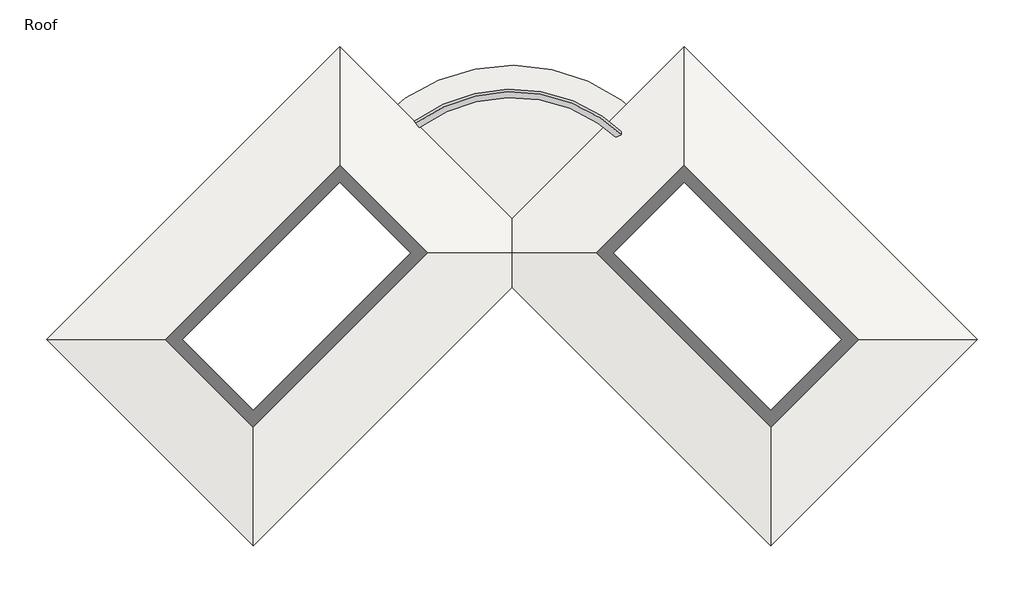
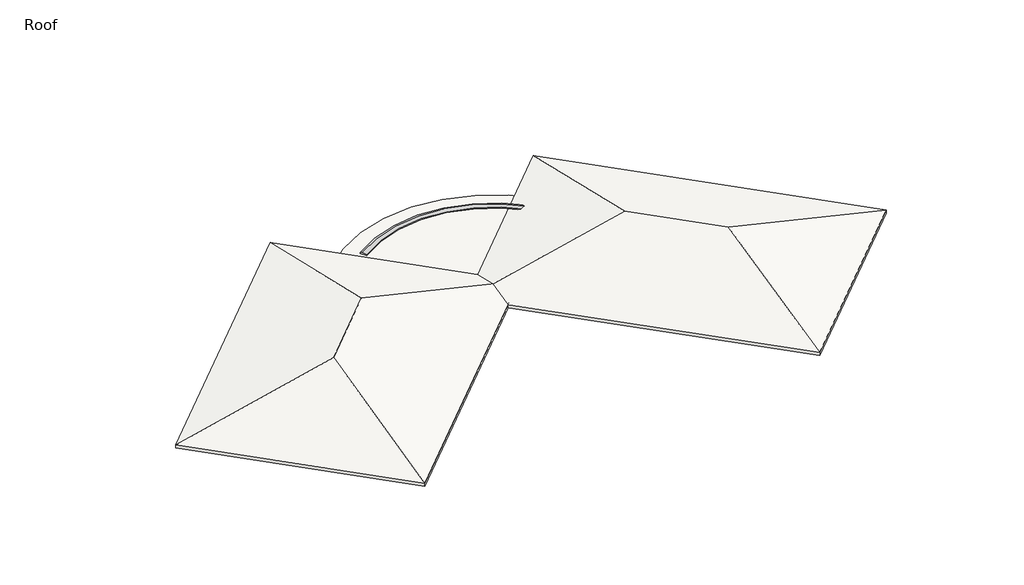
# One storey: 6 proxies, 3 roofs.
"""IFC4 building model written with IfcOpenShell, lengths in millimetres."""

from ifc_helpers import new_model, si_unit, point, frame, frame_2d, origin, place, context, project, spatial, polyline, circle_curve, trimmed, segment, composite_curve, outline, extrude, faceted_brep, element, save
from ifc_brep_helpers import plane_surface, cylinder_surface, revolved_surface, advanced_brep

model = new_model("IFC4")

# Units and contexts
model_context = context("Model", 3, world=origin())
ifc_project = project(units=[si_unit("LENGTHUNIT", "METRE", prefix="MILLI")], contexts=[model_context])

# Site, building, storey
site = spatial("IfcSite", under=ifc_project)
building = spatial("IfcBuilding", under=site)
storey = spatial("IfcBuildingStorey", under=building, Name="Roof", Elevation=4572.0)

# Proxies
placement = place(None, origin())
element("IfcBuildingElementProxy", 1, Name="Wall Sweeps", at=placement, inside=storey, context=model_context, shape_type="Brep", body=[
    faceted_brep([(4057.9485283, 9339.6949534, 4635.5), (3860.3828937, 9537.2605881, 4673.6), (3770.5803325, 9627.0631493, 4635.5), (3770.5803325, 9627.0631493, 4572.0), (4057.9485283, 9339.6949534, 4572.0), (5753.0175119, 11034.763937, 4635.5), (5753.0175119, 11034.763937, 4572.0), (5753.0175119, 11609.5003287, 4572.0), (5753.0175119, 11609.5003287, 4635.5), (5753.0175119, 11429.8952063, 4673.6)], [[[0, 1, 2, 3, 4]], [[5, 6, 7, 8, 9]], [[1, 0, 5, 9]], [[2, 1, 9, 8]], [[3, 2, 8, 7]], [[4, 3, 7, 6]], [[0, 4, 6, 5]]]),
])
element("IfcBuildingElementProxy", 2, Name="Wall Sweeps", at=placement, inside=storey, context=model_context, shape_type="Brep", body=[
    faceted_brep([(5753.0175119, 11034.763937, 4635.5), (5753.0175119, 11429.8952063, 4673.6), (5753.0175119, 11609.5003287, 4635.5), (5753.0175119, 11609.5003287, 4572.0), (5753.0175119, 11034.763937, 4572.0), (18145.770959, -1357.9895101, 4635.5), (18145.770959, -1357.9895101, 4572.0), (18720.5073507, -1357.9895101, 4572.0), (18720.5073507, -1357.9895101, 4635.5), (18540.9022283, -1357.9895101, 4673.6)], [[[0, 1, 2, 3, 4]], [[5, 6, 7, 8, 9]], [[1, 0, 5, 9]], [[2, 1, 9, 8]], [[3, 2, 8, 7]], [[4, 3, 7, 6]], [[0, 4, 6, 5]]]),
])
element("IfcBuildingElementProxy", 3, Name="Wall Sweeps", at=placement, inside=storey, context=model_context, shape_type="Brep", body=[
    faceted_brep([(18145.770959, -1357.9895101, 4635.5), (18540.9022283, -1357.9895101, 4673.6), (18720.5073507, -1357.9895101, 4635.5), (18720.5073507, -1357.9895101, 4572.0), (18145.770959, -1357.9895101, 4572.0), (9918.7338201, -9585.026649, 4635.5), (9918.7338201, -9585.026649, 4572.0), (9938.9393964, -9605.2322253, 4572.0), (10188.1415037, -9854.4343326, 4572.0), (10206.102016, -9872.3948449, 4572.0), (10206.102016, -9872.3948449, 4635.5), (10116.2994547, -9782.5922837, 4673.6)], [[[0, 1, 2, 3, 4]], [[5, 6, 7, 8, 9, 10, 11]], [[1, 0, 5, 11]], [[2, 1, 11, 10]], [[3, 2, 10, 9]], [[4, 3, 9, 8, 7, 6]], [[0, 4, 6, 5]]]),
])
element("IfcBuildingElementProxy", 4, Name="Wall Sweeps", at=placement, inside=storey, context=model_context, shape_type="Brep", body=[
    faceted_brep([(-24151.2353712, -1627.3971937, 4635.5), (-24348.8010059, -1429.8315591, 4673.6), (-24438.6035671, -1340.0289979, 4635.5), (-24438.6035671, -1340.0289979, 4572.0), (-24151.2353712, -1627.3971937, 4572.0), (-11489.0742405, 11034.763937, 4635.5), (-11489.0742405, 11034.763937, 4572.0), (-11489.0742405, 11609.5003287, 4572.0), (-11489.0742405, 11609.5003287, 4635.5), (-11489.0742405, 11429.8952063, 4673.6)], [[[0, 1, 2, 3, 4]], [[5, 6, 7, 8, 9]], [[1, 0, 5, 9]], [[2, 1, 9, 8]], [[3, 2, 8, 7]], [[4, 3, 7, 6]], [[0, 4, 6, 5]]]),
])
element("IfcBuildingElementProxy", 5, Name="Wall Sweeps", at=placement, inside=storey, context=model_context, shape_type="Brep", body=[
    faceted_brep([(-11489.0742405, 11034.763937, 4635.5), (-11489.0742405, 11429.8952063, 4673.6), (-11489.0742405, 11609.5003287, 4635.5), (-11489.0742405, 11609.5003287, 4572.0), (-11489.0742405, 11034.763937, 4572.0), (-8931.8939077, 8477.5836041, 4635.5), (-8931.8939077, 8477.5836041, 4572.0), (-8911.6883314, 8497.7891804, 4572.0), (-8662.486224, 8746.9912878, 4572.0), (-8644.5257118, 8764.9518, 4572.0), (-8644.5257118, 8764.9518, 4635.5), (-8734.328273, 8675.1492388, 4673.6), (-8836.2976328, 8573.179879, 4653.9354839), (-8911.6883314, 8497.7891804, 4639.3965909)], [[[0, 1, 2, 3, 4]], [[5, 6, 7, 8, 9, 10, 11, 12, 13]], [[1, 0, 5, 13, 12, 11]], [[2, 1, 11, 10]], [[3, 2, 10, 9]], [[4, 3, 9, 8, 7, 6]], [[0, 4, 6, 5]]]),
])
element("IfcBuildingElementProxy", 6, Name="Wall Sweeps", at=placement, inside=storey, context=model_context, shape_type="AdvancedBrep", body=[
    advanced_brep(
    [(-7507.26102, 9233.8641208, 4635.5), (-7672.4116971, 9459.2296325, 4673.6), (-7747.4801867, 9561.6685015, 4635.5), (-7747.4801867, 9561.6685015, 4572.0), (-7507.26102, 9233.8641208, 4572.0), (2658.1675575, 8476.4427105, 4635.5), (2658.1675575, 8476.4427105, 4572.0), (2944.3136246, 8765.0278596, 4572.0), (2944.3136246, 8765.0278596, 4635.5), (2854.8929786, 8674.8450005, 4673.6)],
    [
        (0, 1),
        (1, 2),
        (2, 3),
        (3, 4),
        (4, 0),
        (5, 6),
        (6, 7),
        (7, 8),
        (8, 9),
        (9, 5),
        (9, 1, circle_curve(frame((-2868.0283643, 2903.1420194, 4673.6), z_axis=(0.0, 0.0, 1.0), x_axis=(-0.591090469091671, 0.8066052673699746, 0.0)), 8128.0)),
        (0, 5, circle_curve(frame((-2868.0283643, 2903.1420194, 4635.5), z_axis=(0.0, 0.0, -1.0), x_axis=(-0.591090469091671, 0.8066052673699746, 0.0)), 7848.6)),
        (8, 2, circle_curve(frame((-2868.0283643, 2903.1420194, 4635.5), z_axis=(0.0, 0.0, 1.0), x_axis=(-0.591090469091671, 0.8066052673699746, 0.0)), 8255.0)),
        (7, 3, circle_curve(frame((-2868.0283643, 2903.1420194, 4572.0), z_axis=(0.0, 0.0, 1.0), x_axis=(-0.591090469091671, 0.8066052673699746, 0.0)), 8255.0)),
        (6, 4, circle_curve(frame((-2868.0283643, 2903.1420194, 4572.0), z_axis=(0.0, 0.0, 1.0), x_axis=(-0.591090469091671, 0.8066052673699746, 0.0)), 7848.6)),
    ],
    [
        plane_surface(frame((-2868.0283643, 2903.1420194, 4572.0), z_axis=(-0.8066052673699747, -0.5910904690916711, 0.0), x_axis=(-0.5910904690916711, 0.8066052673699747, 0.0))),
        plane_surface(frame((-2868.0283643, 2903.1420194, 4572.0), z_axis=(0.710101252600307, -0.7040995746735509, 0.0), x_axis=(0.7040995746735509, 0.710101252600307, 0.0))),
        revolved_surface(polyline([(-7507.26102, 9233.8641208, 4635.5), (-7672.4116971, 9459.2296325, 4673.6)]), (-2868.0283643, 2903.1420194, 4572.0), (0.0, 0.0, -1.0)),
        revolved_surface(polyline([(-7672.4116971, 9459.2296325, 4673.6), (-7747.4801867, 9561.6685015, 4635.5)]), (-2868.0283643, 2903.1420194, 4572.0), (0.0, 0.0, -1.0)),
        cylinder_surface(frame((-2868.0283643, 2903.1420194, 4572.0), z_axis=(0.0, 0.0, -1.0), x_axis=(-0.591090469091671, 0.8066052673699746, 0.0)), 8255.0),
        plane_surface(frame((-2868.0283643, 2903.1420194, 4572.0), z_axis=(0.0, 0.0, -1.0000000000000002), x_axis=(-0.5910904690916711, 0.8066052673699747, 0.0))),
        revolved_surface(polyline([(-7507.261020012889, 9233.864120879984, 4572.0), (-7507.261020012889, 9233.864120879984, 4635.5)]), (-2868.0283643, 2903.1420194, 4572.0), (0.0, 0.0, -1.0)),
    ],
    [
        (0, [[1, 2, 3, 4, 5]]),
        (1, [[6, 7, 8, 9, 10]]),
        (2, [[11, -1, 12, -10]]),
        (3, [[13, -2, -11, -9]]),
        (4, [[14, -3, -13, -8]]),
        (5, [[15, -4, -14, -7]]),
        (6, [[-12, -5, -15, -6]]),
    ],
),
])

# Roofs
element("IfcRoof", 7, ObjectType="Insulation on Metal Deck - EPDM", at=placement, inside=storey, context=model_context, shape_type="Brep", body=[
    faceted_brep([(-11489.0742405, 2952.533428, 6604.0), (-11489.0742405, 13297.7884795, 4165.6), (-1143.8191891, 2952.533428, 4165.6), (-26144.8522301, -1357.9895101, 4165.6), (-15799.5971786, -1357.9895101, 6604.0), (-15799.5971786, -11703.2445616, 4165.6), (-11489.0742405, 13297.7884795, 4373.0981191), (-11489.0742405, 2952.533428, 6811.4981191), (-1143.8191891, 2952.533428, 4373.0981191), (-26144.8522301, -1357.9895101, 4373.0981191), (-15799.5971786, -11703.2445616, 4373.0981191), (-15799.5971786, -1357.9895101, 6811.4981191)], [[[0, 1, 2]], [[3, 4, 5]], [[1, 0, 4, 3]], [[5, 4, 0, 2]], [[6, 7, 8]], [[9, 10, 11]], [[6, 9, 11, 7]], [[10, 8, 7, 11]], [[3, 9, 6, 1]], [[5, 10, 9, 3]], [[2, 8, 10, 5]], [[1, 6, 8, 2]]]),
])
element("IfcRoof", 8, ObjectType="Insulation on Metal Deck - EPDM", at=placement, inside=storey, context=model_context, shape_type="Brep", body=[
    faceted_brep([(5753.0175119, 13297.7884795, 4165.6), (5753.0175119, 2952.533428, 6604.0), (-4592.2375396, 2952.533428, 4165.6), (10063.54045, -11703.2445616, 4165.6), (10063.54045, -1357.9895101, 6604.0), (20408.7955015, -1357.9895101, 4165.6), (5753.0175119, 13297.7884795, 4373.0981191), (-4592.2375396, 2952.533428, 4373.0981191), (5753.0175119, 2952.533428, 6811.4981191), (10063.54045, -11703.2445616, 4373.0981191), (20408.7955015, -1357.9895101, 4373.0981191), (10063.54045, -1357.9895101, 6811.4981191)], [[[0, 1, 2]], [[3, 4, 5]], [[1, 0, 5, 4]], [[2, 1, 4, 3]], [[6, 7, 8]], [[9, 10, 11]], [[6, 8, 11, 10]], [[7, 9, 11, 8]], [[0, 6, 10, 5]], [[5, 10, 9, 3]], [[3, 9, 7, 2]], [[2, 7, 6, 0]]]),
])
element("IfcRoof", 9, ObjectType="Insulation on Metal Deck - EPDM", at=placement, inside=storey, context=model_context, shape_type="SweptSolid", body=[
    extrude(outline(composite_curve([segment(trimmed(circle_curve(frame_2d((-2868.0283643, 2903.1420194)), 9448.8), [point((-9665.5266036, 9466.2083094))], [point((4034.0155785, 9356.1731561))], False, "CARTESIAN"), True, "CONTINUOUS"), segment(polyline([(4034.0155785, 9356.1731561), (-2760.7379359, 2561.4196417), (-9665.5266036, 9466.2083094)]), True, "CONTINUOUS")], self_intersect=False)), frame((0.0, 0.0, 4165.6), z_axis=(0.0, 0.0, 1.0), x_axis=(1.0, 0.0, 0.0)), (0.0, 0.0, 1.0), 196.85),
])

save(model, "model.ifc")
